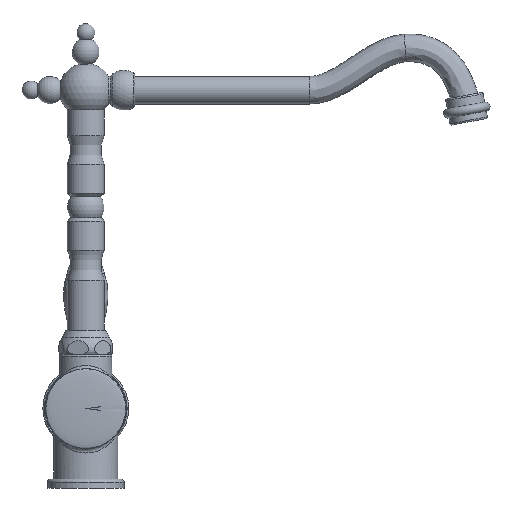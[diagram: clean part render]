
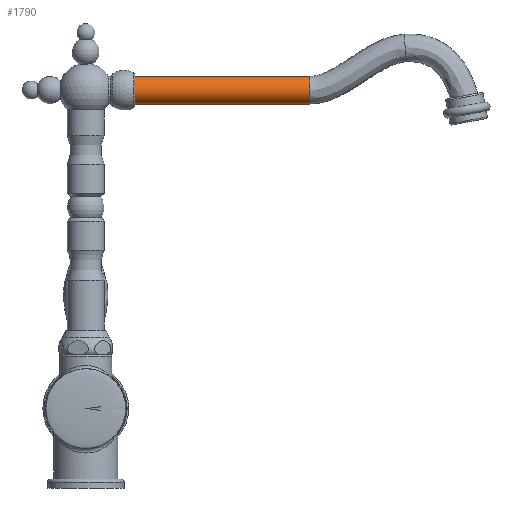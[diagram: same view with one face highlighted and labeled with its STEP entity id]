
A CAD part, front view. The second image highlights one B-rep face of the part: STEP entity #1790.
In plain terms, the highlighted cylindrical face has radius 9 mm (diameter 18 mm), a full revolution.
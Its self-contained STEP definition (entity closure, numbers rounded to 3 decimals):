
#1790=ADVANCED_FACE('',(#5114,#5116),#5118,.T.);
#5114=FACE_OUTER_BOUND('',#5115,.T.);
#5115=EDGE_LOOP('',(#6377));
#5116=FACE_OUTER_BOUND('',#5117,.T.);
#5117=EDGE_LOOP('',(#6378));
#5118=CYLINDRICAL_SURFACE('',#5119,9.);
#5119=AXIS2_PLACEMENT_3D('',#5120,#5121,#5122);
#5120=CARTESIAN_POINT('',(0.,-8.,259.603));
#5121=DIRECTION('',(1.,0.,0.));
#5122=DIRECTION('',(0.,1.,0.));
#6377=ORIENTED_EDGE('',*,*,#6949,.F.);
#6378=ORIENTED_EDGE('',*,*,#6952,.T.);
#6949=EDGE_CURVE('',#7795,#7795,#7796,.T.);
#6952=EDGE_CURVE('',#7801,#7801,#7802,.T.);
#7795=VERTEX_POINT('',#15104);
#7796=CIRCLE('',#15105,9.);
#7801=VERTEX_POINT('',#15119);
#7802=CIRCLE('',#15120,9.);
#15104=CARTESIAN_POINT('',(146.085,1.,259.603));
#15105=AXIS2_PLACEMENT_3D('',#15106,#15107,#15108);
#15106=CARTESIAN_POINT('',(146.085,-8.,259.603));
#15107=DIRECTION('',(1.,0.,0.));
#15108=DIRECTION('',(0.,1.,0.));
#15119=CARTESIAN_POINT('',(31.94,1.,259.603));
#15120=AXIS2_PLACEMENT_3D('',#15121,#15122,#15123);
#15121=CARTESIAN_POINT('',(31.94,-8.,259.603));
#15122=DIRECTION('',(1.,0.,0.));
#15123=DIRECTION('',(0.,1.,0.));
